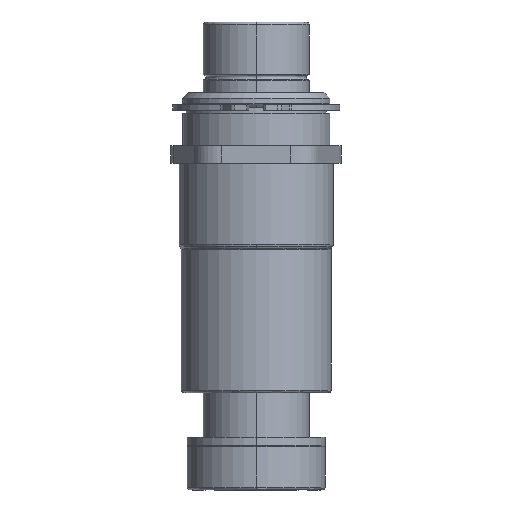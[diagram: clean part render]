
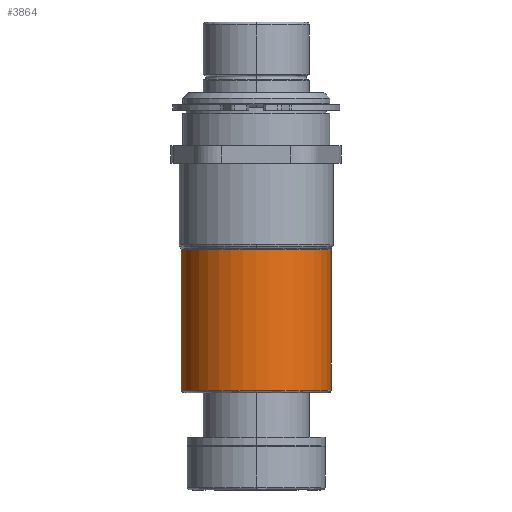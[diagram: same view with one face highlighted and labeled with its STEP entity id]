
A CAD part, left-side view. The second image highlights one B-rep face of the part: STEP entity #3864.
In plain terms, the highlighted cylindrical face has radius 26.924 mm (diameter 53.848 mm), a partial arc.
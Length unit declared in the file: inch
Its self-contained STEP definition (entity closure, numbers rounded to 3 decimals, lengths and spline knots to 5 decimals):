
#103 = CIRCLE ( 'NONE', #3593, 1.06 ) ;
#243 = VERTEX_POINT ( 'NONE', #1744 ) ;
#311 = CIRCLE ( 'NONE', #4146, 1.06 ) ;
#501 = CARTESIAN_POINT ( 'NONE',  ( 0., -1.225, 0. ) ) ;
#642 = DIRECTION ( 'NONE',  ( 0., -1., 0. ) ) ;
#671 = VECTOR ( 'NONE', #4860, 39.37008 ) ;
#839 = EDGE_CURVE ( 'NONE', #2147, #3959, #103, .T. ) ;
#1026 = ORIENTED_EDGE ( 'NONE', *, *, #2314, .F. ) ;
#1322 = DIRECTION ( 'NONE',  ( 0., 1., 0. ) ) ;
#1744 = CARTESIAN_POINT ( 'NONE',  ( 0., -3.21, 1.06 ) ) ;
#1792 = CARTESIAN_POINT ( 'NONE',  ( 0., -3.25, -1.06 ) ) ;
#1890 = DIRECTION ( 'NONE',  ( 0., 0., -1. ) ) ;
#1947 = LINE ( 'NONE', #1792, #671 ) ;
#1983 = DIRECTION ( 'NONE',  ( 0., 0., 1. ) ) ;
#2097 = CARTESIAN_POINT ( 'NONE',  ( 0., -3.25, 0. ) ) ;
#2147 = VERTEX_POINT ( 'NONE', #4023 ) ;
#2191 = VECTOR ( 'NONE', #4537, 39.37008 ) ;
#2272 = AXIS2_PLACEMENT_3D ( 'NONE', #2097, #1322, #2427 ) ;
#2288 = EDGE_CURVE ( 'NONE', #243, #2147, #3188, .T. ) ;
#2298 = CIRCLE ( 'NONE', #3979, 1.06 ) ;
#2314 = EDGE_CURVE ( 'NONE', #243, #4855, #2298, .T. ) ;
#2427 = DIRECTION ( 'NONE',  ( 0., 0., 1. ) ) ;
#2544 = VERTEX_POINT ( 'NONE', #3045 ) ;
#2636 = ORIENTED_EDGE ( 'NONE', *, *, #3499, .T. ) ;
#2653 = CARTESIAN_POINT ( 'NONE',  ( 0., -1.225, 0. ) ) ;
#3045 = CARTESIAN_POINT ( 'NONE',  ( 0., -1.225, -1.06 ) ) ;
#3048 = DIRECTION ( 'NONE',  ( 0., 0., 1. ) ) ;
#3188 = LINE ( 'NONE', #4117, #2191 ) ;
#3377 = CARTESIAN_POINT ( 'NONE',  ( 0., -3.21, 0. ) ) ;
#3393 = DIRECTION ( 'NONE',  ( 0., -1., 0. ) ) ;
#3406 = EDGE_CURVE ( 'NONE', #4855, #2544, #1947, .T. ) ;
#3443 = ORIENTED_EDGE ( 'NONE', *, *, #2288, .T. ) ;
#3499 = EDGE_CURVE ( 'NONE', #3959, #2544, #311, .T. ) ;
#3514 = CARTESIAN_POINT ( 'NONE',  ( 0., -3.21, -1.06 ) ) ;
#3593 = AXIS2_PLACEMENT_3D ( 'NONE', #501, #4265, #1983 ) ;
#3611 = ORIENTED_EDGE ( 'NONE', *, *, #3406, .F. ) ;
#3695 = ORIENTED_EDGE ( 'NONE', *, *, #839, .T. ) ;
#3789 = CYLINDRICAL_SURFACE ( 'NONE', #2272, 1.06 ) ;
#3864 = ADVANCED_FACE ( 'NONE', ( #4344 ), #3789, .T. ) ;
#3959 = VERTEX_POINT ( 'NONE', #4799 ) ;
#3979 = AXIS2_PLACEMENT_3D ( 'NONE', #3377, #642, #1890 ) ;
#4023 = CARTESIAN_POINT ( 'NONE',  ( 0., -1.225, 1.06 ) ) ;
#4117 = CARTESIAN_POINT ( 'NONE',  ( 0., -3.25, 1.06 ) ) ;
#4146 = AXIS2_PLACEMENT_3D ( 'NONE', #2653, #3393, #3048 ) ;
#4265 = DIRECTION ( 'NONE',  ( 0., -1., 0. ) ) ;
#4327 = EDGE_LOOP ( 'NONE', ( #3611, #1026, #3443, #3695, #2636 ) ) ;
#4344 = FACE_OUTER_BOUND ( 'NONE', #4327, .T. ) ;
#4537 = DIRECTION ( 'NONE',  ( 0., 1., 0. ) ) ;
#4799 = CARTESIAN_POINT ( 'NONE',  ( -1.06, -1.225, 0. ) ) ;
#4855 = VERTEX_POINT ( 'NONE', #3514 ) ;
#4860 = DIRECTION ( 'NONE',  ( 0., 1., 0. ) ) ;
